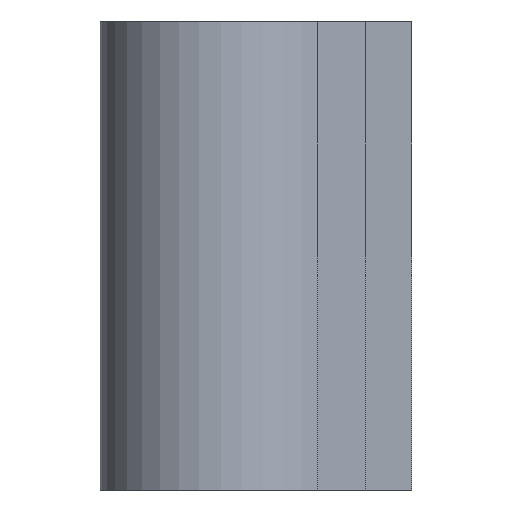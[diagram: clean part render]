
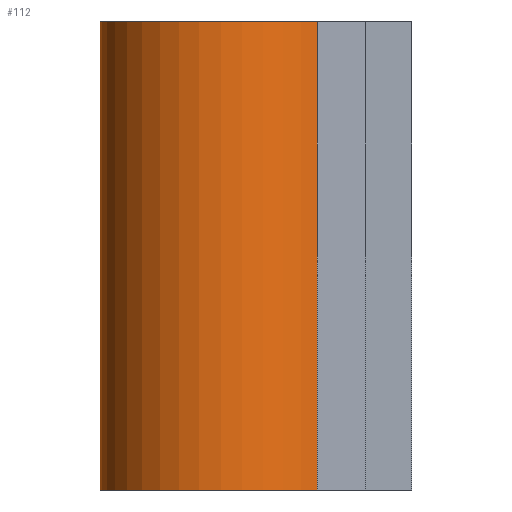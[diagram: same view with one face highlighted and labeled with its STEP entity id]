
A CAD part, front view. The second image highlights one B-rep face of the part: STEP entity #112.
In plain terms, the highlighted cylindrical face has radius 8 mm (diameter 16 mm), a partial arc.
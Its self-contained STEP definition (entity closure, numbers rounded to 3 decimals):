
#29 = DIRECTION ( 'NONE',  ( 1., 0., 0. ) ) ;
#52 = AXIS2_PLACEMENT_3D ( 'NONE', #292, #729, #180 ) ;
#112 = ADVANCED_FACE ( 'NONE', ( #545 ), #260, .T. ) ;
#136 = ORIENTED_EDGE ( 'NONE', *, *, #340, .F. ) ;
#167 = CIRCLE ( 'NONE', #671, 8. ) ;
#176 = ORIENTED_EDGE ( 'NONE', *, *, #609, .T. ) ;
#180 = DIRECTION ( 'NONE',  ( 1., 0., 0. ) ) ;
#199 = DIRECTION ( 'NONE',  ( 0., 0., 1. ) ) ;
#226 = DIRECTION ( 'NONE',  ( 0., 0., 1. ) ) ;
#253 = EDGE_LOOP ( 'NONE', ( #136, #647, #176, #717 ) ) ;
#260 = CYLINDRICAL_SURFACE ( 'NONE', #52, 8. ) ;
#292 = CARTESIAN_POINT ( 'NONE',  ( 0., 0., -30. ) ) ;
#303 = CARTESIAN_POINT ( 'NONE',  ( 0., 0., -30. ) ) ;
#338 = CIRCLE ( 'NONE', #771, 8. ) ;
#340 = EDGE_CURVE ( 'NONE', #746, #668, #167, .T. ) ;
#352 = VERTEX_POINT ( 'NONE', #577 ) ;
#360 = DIRECTION ( 'NONE',  ( 1., 0., 0. ) ) ;
#385 = CARTESIAN_POINT ( 'NONE',  ( 5.914, -5.388, -30. ) ) ;
#392 = CARTESIAN_POINT ( 'NONE',  ( 0., 8., -30. ) ) ;
#399 = CARTESIAN_POINT ( 'NONE',  ( 0., 8., -30. ) ) ;
#417 = EDGE_CURVE ( 'NONE', #538, #746, #754, .T. ) ;
#437 = CARTESIAN_POINT ( 'NONE',  ( 0., 8., 0. ) ) ;
#469 = EDGE_CURVE ( 'NONE', #352, #668, #670, .T. ) ;
#538 = VERTEX_POINT ( 'NONE', #399 ) ;
#542 = CARTESIAN_POINT ( 'NONE',  ( 5.914, -5.388, 0. ) ) ;
#545 = FACE_OUTER_BOUND ( 'NONE', #253, .T. ) ;
#562 = VECTOR ( 'NONE', #770, 1000. ) ;
#577 = CARTESIAN_POINT ( 'NONE',  ( 5.914, -5.388, -30. ) ) ;
#609 = EDGE_CURVE ( 'NONE', #538, #352, #338, .T. ) ;
#640 = CARTESIAN_POINT ( 'NONE',  ( 0., 0., 0. ) ) ;
#647 = ORIENTED_EDGE ( 'NONE', *, *, #417, .F. ) ;
#668 = VERTEX_POINT ( 'NONE', #542 ) ;
#670 = LINE ( 'NONE', #385, #690 ) ;
#671 = AXIS2_PLACEMENT_3D ( 'NONE', #640, #710, #29 ) ;
#690 = VECTOR ( 'NONE', #226, 1000. ) ;
#710 = DIRECTION ( 'NONE',  ( 0., 0., 1. ) ) ;
#717 = ORIENTED_EDGE ( 'NONE', *, *, #469, .T. ) ;
#729 = DIRECTION ( 'NONE',  ( 0., 0., 1. ) ) ;
#746 = VERTEX_POINT ( 'NONE', #437 ) ;
#754 = LINE ( 'NONE', #392, #562 ) ;
#770 = DIRECTION ( 'NONE',  ( 0., 0., 1. ) ) ;
#771 = AXIS2_PLACEMENT_3D ( 'NONE', #303, #199, #360 ) ;
